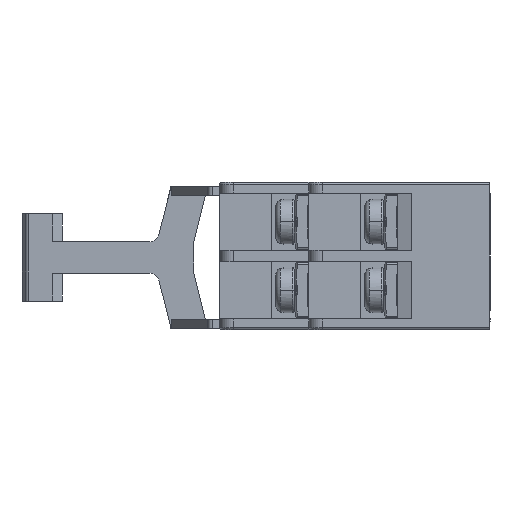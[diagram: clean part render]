
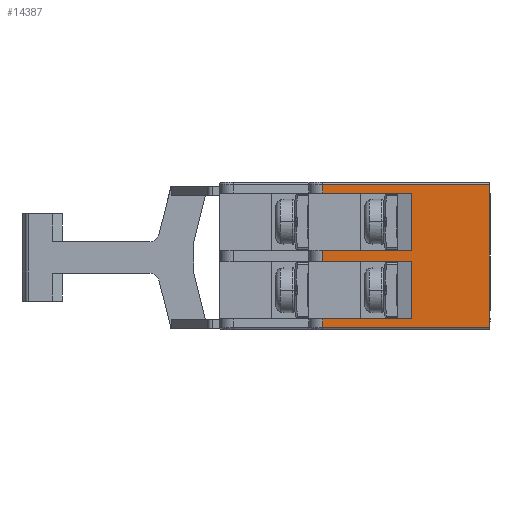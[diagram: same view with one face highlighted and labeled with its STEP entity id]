
A CAD part, left-side view. The second image highlights one B-rep face of the part: STEP entity #14387.
In plain terms, the highlighted planar face has unit normal (-1, 0, 0).
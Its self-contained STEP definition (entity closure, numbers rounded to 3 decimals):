
#266 = DIRECTION ( 'NONE',  ( 0., 1., 0. ) ) ;
#1788 = CARTESIAN_POINT ( 'NONE',  ( -34.19, -12.996, -7.65 ) ) ;
#1866 = VECTOR ( 'NONE', #266, 1000. ) ;
#1869 = CARTESIAN_POINT ( 'NONE',  ( -34.19, 4.954, -0.6 ) ) ;
#2042 = VERTEX_POINT ( 'NONE', #1869 ) ;
#2203 = ORIENTED_EDGE ( 'NONE', *, *, #39338, .F. ) ;
#3053 = VECTOR ( 'NONE', #51389, 1000. ) ;
#3514 = VECTOR ( 'NONE', #51219, 1000. ) ;
#3617 = ORIENTED_EDGE ( 'NONE', *, *, #32071, .T. ) ;
#3807 = EDGE_CURVE ( 'NONE', #18536, #2042, #39952, .T. ) ;
#3934 = VERTEX_POINT ( 'NONE', #14298 ) ;
#4579 = LINE ( 'NONE', #56314, #3053 ) ;
#6747 = VERTEX_POINT ( 'NONE', #48744 ) ;
#7560 = CARTESIAN_POINT ( 'NONE',  ( -34.19, 4.954, 0.6 ) ) ;
#7571 = CARTESIAN_POINT ( 'NONE',  ( -34.19, 4.954, -7.65 ) ) ;
#9723 = CARTESIAN_POINT ( 'NONE',  ( -34.19, -4.596, -0.6 ) ) ;
#12992 = CARTESIAN_POINT ( 'NONE',  ( -34.19, 4.954, -6.75 ) ) ;
#13661 = CARTESIAN_POINT ( 'NONE',  ( -34.19, -4.596, -6.75 ) ) ;
#14058 = VECTOR ( 'NONE', #18175, 1000. ) ;
#14298 = CARTESIAN_POINT ( 'NONE',  ( -34.19, -4.596, 6.75 ) ) ;
#14381 = VERTEX_POINT ( 'NONE', #7571 ) ;
#14387 = ADVANCED_FACE ( 'NONE', ( #59323 ), #41566, .F. ) ;
#14635 = DIRECTION ( 'NONE',  ( 0., 1., 0. ) ) ;
#14738 = LINE ( 'NONE', #29352, #1866 ) ;
#15067 = LINE ( 'NONE', #1788, #53870 ) ;
#15591 = VERTEX_POINT ( 'NONE', #37554 ) ;
#16008 = EDGE_CURVE ( 'NONE', #40906, #14381, #57620, .T. ) ;
#16723 = VECTOR ( 'NONE', #43878, 1000. ) ;
#17628 = AXIS2_PLACEMENT_3D ( 'NONE', #56271, #27180, #61130 ) ;
#18175 = DIRECTION ( 'NONE',  ( 0., 0., -1. ) ) ;
#18536 = VERTEX_POINT ( 'NONE', #7560 ) ;
#18713 = ORIENTED_EDGE ( 'NONE', *, *, #16008, .T. ) ;
#20365 = LINE ( 'NONE', #58216, #57607 ) ;
#22517 = CARTESIAN_POINT ( 'NONE',  ( -34.19, -4.596, 0.6 ) ) ;
#24115 = CARTESIAN_POINT ( 'NONE',  ( -34.19, -12.996, -7.65 ) ) ;
#24850 = EDGE_CURVE ( 'NONE', #3934, #6747, #32866, .T. ) ;
#25787 = DIRECTION ( 'NONE',  ( 0., 0., -1. ) ) ;
#27180 = DIRECTION ( 'NONE',  ( 1., 0., 0. ) ) ;
#27776 = CARTESIAN_POINT ( 'NONE',  ( -34.19, 4.954, -0.6 ) ) ;
#28120 = EDGE_CURVE ( 'NONE', #15591, #60264, #32399, .T. ) ;
#29334 = VERTEX_POINT ( 'NONE', #48338 ) ;
#29352 = CARTESIAN_POINT ( 'NONE',  ( -34.19, -3.096, -0.6 ) ) ;
#29448 = CARTESIAN_POINT ( 'NONE',  ( -34.19, -4.596, -6.75 ) ) ;
#29498 = ORIENTED_EDGE ( 'NONE', *, *, #28120, .F. ) ;
#30172 = EDGE_CURVE ( 'NONE', #3934, #49467, #30652, .T. ) ;
#30652 = LINE ( 'NONE', #50747, #56513 ) ;
#31485 = CARTESIAN_POINT ( 'NONE',  ( -34.19, -12.996, 8. ) ) ;
#31774 = VECTOR ( 'NONE', #55341, 1000. ) ;
#32071 = EDGE_CURVE ( 'NONE', #53890, #51901, #55531, .T. ) ;
#32399 = LINE ( 'NONE', #31485, #3514 ) ;
#32866 = LINE ( 'NONE', #60434, #47307 ) ;
#33002 = EDGE_CURVE ( 'NONE', #29334, #6747, #50969, .T. ) ;
#33187 = EDGE_CURVE ( 'NONE', #51901, #40906, #4579, .T. ) ;
#33959 = ORIENTED_EDGE ( 'NONE', *, *, #33187, .T. ) ;
#35276 = DIRECTION ( 'NONE',  ( 0., 1., 0. ) ) ;
#35767 = DIRECTION ( 'NONE',  ( 0., -1., 0. ) ) ;
#36224 = DIRECTION ( 'NONE',  ( 0., 1., 0. ) ) ;
#37554 = CARTESIAN_POINT ( 'NONE',  ( -34.19, -12.996, 7.65 ) ) ;
#39338 = EDGE_CURVE ( 'NONE', #53890, #2042, #14738, .T. ) ;
#39952 = LINE ( 'NONE', #27776, #14058 ) ;
#40050 = ORIENTED_EDGE ( 'NONE', *, *, #30172, .T. ) ;
#40392 = CARTESIAN_POINT ( 'NONE',  ( -34.19, 4.954, 6.75 ) ) ;
#40906 = VERTEX_POINT ( 'NONE', #12992 ) ;
#41566 = PLANE ( 'NONE',  #17628 ) ;
#43451 = EDGE_CURVE ( 'NONE', #49467, #18536, #20365, .T. ) ;
#43878 = DIRECTION ( 'NONE',  ( 0., 0., -1. ) ) ;
#45047 = CARTESIAN_POINT ( 'NONE',  ( -34.19, 4.954, 7.65 ) ) ;
#45335 = CARTESIAN_POINT ( 'NONE',  ( -34.19, 4.954, -8. ) ) ;
#45663 = DIRECTION ( 'NONE',  ( 0., 0., -1. ) ) ;
#46151 = ORIENTED_EDGE ( 'NONE', *, *, #24850, .F. ) ;
#47307 = VECTOR ( 'NONE', #36224, 1000. ) ;
#48338 = CARTESIAN_POINT ( 'NONE',  ( -34.19, 4.954, 7.65 ) ) ;
#48744 = CARTESIAN_POINT ( 'NONE',  ( -34.19, 4.954, 6.75 ) ) ;
#49012 = ORIENTED_EDGE ( 'NONE', *, *, #43451, .T. ) ;
#49450 = VECTOR ( 'NONE', #25787, 1000. ) ;
#49467 = VERTEX_POINT ( 'NONE', #22517 ) ;
#50747 = CARTESIAN_POINT ( 'NONE',  ( -34.19, -4.596, 0.6 ) ) ;
#50969 = LINE ( 'NONE', #40392, #49450 ) ;
#51219 = DIRECTION ( 'NONE',  ( 0., 0., -1. ) ) ;
#51389 = DIRECTION ( 'NONE',  ( 0., 1., 0. ) ) ;
#51901 = VERTEX_POINT ( 'NONE', #13661 ) ;
#52895 = VECTOR ( 'NONE', #35276, 1000. ) ;
#52978 = EDGE_CURVE ( 'NONE', #14381, #60264, #15067, .T. ) ;
#53717 = ORIENTED_EDGE ( 'NONE', *, *, #52978, .T. ) ;
#53870 = VECTOR ( 'NONE', #35767, 1000. ) ;
#53890 = VERTEX_POINT ( 'NONE', #9723 ) ;
#55341 = DIRECTION ( 'NONE',  ( 0., 0., -1. ) ) ;
#55531 = LINE ( 'NONE', #29448, #16723 ) ;
#55940 = LINE ( 'NONE', #45047, #52895 ) ;
#56271 = CARTESIAN_POINT ( 'NONE',  ( -34.19, -12.996, 8. ) ) ;
#56314 = CARTESIAN_POINT ( 'NONE',  ( -34.19, -3.096, -6.75 ) ) ;
#56513 = VECTOR ( 'NONE', #45663, 1000. ) ;
#57107 = EDGE_LOOP ( 'NONE', ( #18713, #53717, #29498, #61934, #59020, #46151, #40050, #49012, #58864, #2203, #3617, #33959 ) ) ;
#57607 = VECTOR ( 'NONE', #14635, 1000. ) ;
#57620 = LINE ( 'NONE', #45335, #31774 ) ;
#58216 = CARTESIAN_POINT ( 'NONE',  ( -34.19, -3.096, 0.6 ) ) ;
#58864 = ORIENTED_EDGE ( 'NONE', *, *, #3807, .T. ) ;
#59020 = ORIENTED_EDGE ( 'NONE', *, *, #33002, .T. ) ;
#59323 = FACE_OUTER_BOUND ( 'NONE', #57107, .T. ) ;
#60264 = VERTEX_POINT ( 'NONE', #24115 ) ;
#60434 = CARTESIAN_POINT ( 'NONE',  ( -34.19, -3.096, 6.75 ) ) ;
#61130 = DIRECTION ( 'NONE',  ( 0., 1., 0. ) ) ;
#61934 = ORIENTED_EDGE ( 'NONE', *, *, #62331, .T. ) ;
#62331 = EDGE_CURVE ( 'NONE', #15591, #29334, #55940, .T. ) ;
